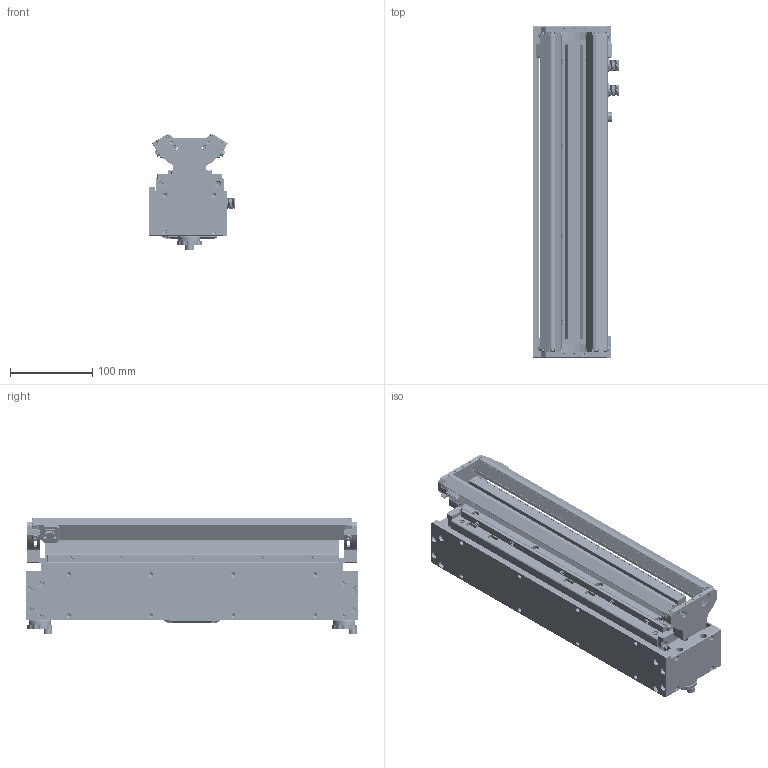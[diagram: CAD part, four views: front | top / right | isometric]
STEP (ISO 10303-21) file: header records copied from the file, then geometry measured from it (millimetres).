
FILE_DESCRIPTION((''),'2;1');
FILE_NAME('00-CIS-0002_ASM_ASM','2025-11-07T17:41:31',('gengdawei'),(''),'CREO PARAMETRIC BY PTC INC, 2020044','CREO PARAMETRIC BY PTC INC, 2020044','');
FILE_SCHEMA(('CONFIG_CONTROL_DESIGN'));
Products named in the file (80): DE-14-074160_107; DE-14-074162_159; DE-14-074161_136; DE-14-074162B_46; DE-14-074232_102; DE-14-074162BJINGXIANG_18; BBS3800-DANLIE_3; DE-14-074231_68; DE-14-074244_30; DE-14-074230_116; DE-14-076578_38; SC-KM5X10-SUS_5; SC-HSCM5X50-SCM435-DAC-GB70_1_2; DE-11-124058_21; 0003_3; SC-PSFM3X5PM-BNI_2; 0004_3; POM00_5; POM000_4; 0002_ASM_444_ASM; _X2_4FA7677F9ED1827296336781__1; 0515-DINGMAOGENGXIN_4; 0318_AF0_ASM_99_ASM; DE-14-074223_183; DE-14-074115_134; 0008_ASM_82; DE-11-117929_17; 0009_8; D-01-37-26-0077_4; SC-T1M2X4B_2; SC-KM4X8-NI_5; 0007_ASM_132_ASM; DE-14-074114_163; D-01-35-26-0837_3; ST1213_6; 101300190_15; MV-24335_ASM_21_ASM; SC-KM2X4B_2; 0010_ASM_125_ASM; DE-14-074134_190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
Assembly tree (204 placements, depth 10):
  00-CIS-0002_ASM_ASM
    00-CIS-0002_ASM_577_ASM
      0002_ASM_444_ASM
        DE-14-074160_107
        DE-14-074162_159  x2
        DE-14-074161_136
        DE-14-074162B_46
        DE-14-074232_102
        DE-14-074162BJINGXIANG_18
        BBS3800-DANLIE_3
        DE-14-074231_68
        DE-14-074244_30  x2
        DE-14-074230_116
        DE-14-076578_38
        SC-KM5X10-SUS_5  x20
        SC-HSCM5X50-SCM435-DAC-GB70_1_2  x2
        DE-11-124058_21
        0003_3  x2
        SC-PSFM3X5PM-BNI_2
        0004_3  x2
        POM00_5  x2
        POM000_4
      0005_ASM_399_ASM
        0006_ASM_298_ASM
          0318_AF0_ASM_99_ASM
            _X2_4FA7677F9ED1827296336781__1
            0515-DINGMAOGENGXIN_4
          DE-14-074223_183  x2
          0007_ASM_132_ASM
            DE-14-074115_134
            0008_ASM_82  x2
            DE-11-117929_17  x2
            0009_8  x4
            D-01-37-26-0077_4  x2
            SC-T1M2X4B_2  x8
            SC-KM4X8-NI_5  x5
          0010_ASM_125_ASM
            DE-14-074114_163
            D-01-35-26-0837_3  x4
            ST1213_6  x2
            MV-24335_ASM_21_ASM
              101300190_15
            SC-KM2X4B_2  x2
            SC-KM4X8-NI_5  x7
          0013_ASM_249_ASM
            DE-14-074134_190
            DE-14-037205_3
            SC-PM3X20-GB823-SUS304-BZN_3  x4
            0014_ASM_158_ASM
              6015C-B_STEP_ASM_10_ASM
                6015C-B3D_1000_ASM_3_ASM
                  6015C-B3D000_4_ASM
                  6015C-B_AO0001_4
              DE-17-001989_3  x4
            ST-S5X6-M3X6-F3X5-CU_4  x4
            SC-K1M3X7-BNI_4  x8
            D-01-37-26-0077_4  x2
            ST-S5_5X7-M3X5-F3X5-CU_3
        MV_23564_REV10_ASM_30_ASM
          101303005_11  x2
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Bounding box: 105 x 404 x 140.83 mm (x, y, z)
Volume: 2118460.1 mm3; surface area: 818080.3 mm2
Topology: 183 solids, 465 shells, 15322 faces, 41991 edges, 27221 vertices
Faces by surface type: plane 8691, cylinder 4612, cone 1363, bspline 347, torus 265, sphere 25, extrusion 19
Entity records: 283982 total; most frequent: CARTESIAN_POINT 84650, DIRECTION 41703, ORIENTED_EDGE 41139, EDGE_CURVE 20898, AXIS2_PLACEMENT_3D 14483, VERTEX_POINT 13729, VECTOR 12737, LINE 12723
